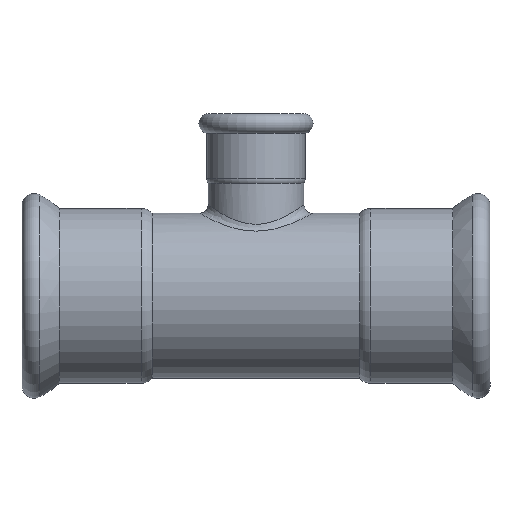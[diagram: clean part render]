
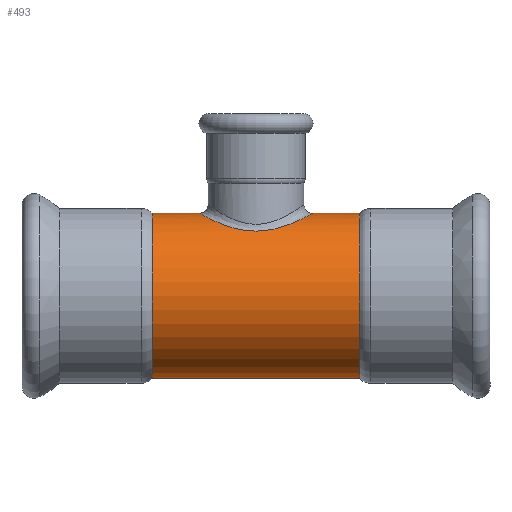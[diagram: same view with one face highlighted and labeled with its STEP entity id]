
A CAD part, front view. The second image highlights one B-rep face of the part: STEP entity #493.
In plain terms, the highlighted cylindrical face has radius 38.05 mm (diameter 76.1 mm), a full revolution.
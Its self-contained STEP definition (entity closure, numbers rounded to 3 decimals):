
#20=B_SPLINE_CURVE_WITH_KNOTS($,3,(#1248,#1249,#1250,#1251,#1252,#1253,
#1254,#1255,#1256,#1257,#1258,#1259,#1260,#1261,#1262,#1263,#1264,#1265,
#1266,#1267,#1268,#1269,#1270,#1271,#1272,#1273),.UNSPECIFIED.,.T.,.F.,
(4,3,1,1,1,1,1,1,1,1,1,1,1,1,1,1,1,1,1,1,1,4),(-13.642,-13.642,
-13.155,-12.668,-11.693,-11.044,
-10.394,-9.744,-9.095,-8.445,
-7.796,-7.146,-6.496,-5.847,
-4.547,-3.898,-3.248,-2.599,
-1.949,-0.974,-0.487,0.),
 .UNSPECIFIED.);
#60=FACE_BOUND($,#182,.T.);
#61=FACE_BOUND($,#183,.T.);
#93=CYLINDRICAL_SURFACE($,#565,38.05);
#122=FACE_OUTER_BOUND($,#181,.T.);
#181=EDGE_LOOP($,(#424));
#182=EDGE_LOOP($,(#425));
#183=EDGE_LOOP($,(#426));
#255=CIRCLE($,#566,38.05);
#256=CIRCLE($,#567,38.05);
#300=VERTEX_POINT($,#1219);
#302=VERTEX_POINT($,#1276);
#303=VERTEX_POINT($,#1278);
#352=EDGE_CURVE($,#300,#300,#20,.T.);
#353=EDGE_CURVE($,#302,#302,#255,.T.);
#354=EDGE_CURVE($,#303,#303,#256,.T.);
#424=ORIENTED_EDGE($,*,*,#353,.F.);
#425=ORIENTED_EDGE($,*,*,#354,.T.);
#426=ORIENTED_EDGE($,*,*,#352,.F.);
#493=ADVANCED_FACE($,(#122,#60,#61),#93,.T.);
#565=AXIS2_PLACEMENT_3D($,#1275,#699,#700);
#566=AXIS2_PLACEMENT_3D($,#1277,#701,#702);
#567=AXIS2_PLACEMENT_3D($,#1279,#703,#704);
#699=DIRECTION('center_axis',(1.,0.,0.));
#700=DIRECTION('ref_axis',(0.,1.,0.));
#701=DIRECTION('center_axis',(1.,0.,0.));
#702=DIRECTION('ref_axis',(0.,1.,0.));
#703=DIRECTION('center_axis',(1.,0.,0.));
#704=DIRECTION('ref_axis',(0.,1.,0.));
#1219=CARTESIAN_POINT('',(-108.,-23.527,29.905));
#1248=CARTESIAN_POINT('Ctrl Pts',(-108.,-23.527,29.904));
#1249=CARTESIAN_POINT('Ctrl Pts',(-108.,-23.527,29.904));
#1250=CARTESIAN_POINT('Ctrl Pts',(-108.,-23.527,29.904));
#1251=CARTESIAN_POINT('Ctrl Pts',(-108.,-23.527,29.904));
#1252=CARTESIAN_POINT('Ctrl Pts',(-106.006,-23.527,29.905));
#1253=CARTESIAN_POINT('Ctrl Pts',(-102.02,-23.109,30.24));
#1254=CARTESIAN_POINT('Ctrl Pts',(-94.631,-20.701,32.014));
#1255=CARTESIAN_POINT('Ctrl Pts',(-88.134,-15.987,34.802));
#1256=CARTESIAN_POINT('Ctrl Pts',(-83.517,-8.928,37.197));
#1257=CARTESIAN_POINT('Ctrl Pts',(-81.661,-1.844,38.243));
#1258=CARTESIAN_POINT('Ctrl Pts',(-82.29,5.466,37.883));
#1259=CARTESIAN_POINT('Ctrl Pts',(-85.27,12.122,36.257));
#1260=CARTESIAN_POINT('Ctrl Pts',(-90.1,17.516,33.916));
#1261=CARTESIAN_POINT('Ctrl Pts',(-96.398,21.437,31.511));
#1262=CARTESIAN_POINT('Ctrl Pts',(-103.916,23.611,29.845));
#1263=CARTESIAN_POINT('Ctrl Pts',(-112.067,23.622,29.83));
#1264=CARTESIAN_POINT('Ctrl Pts',(-122.104,20.704,32.086));
#1265=CARTESIAN_POINT('Ctrl Pts',(-129.733,14.322,35.727));
#1266=CARTESIAN_POINT('Ctrl Pts',(-133.707,5.487,37.876));
#1267=CARTESIAN_POINT('Ctrl Pts',(-134.336,-1.835,38.243));
#1268=CARTESIAN_POINT('Ctrl Pts',(-132.493,-8.914,37.201));
#1269=CARTESIAN_POINT('Ctrl Pts',(-127.858,-15.996,34.799));
#1270=CARTESIAN_POINT('Ctrl Pts',(-121.365,-20.703,32.012));
#1271=CARTESIAN_POINT('Ctrl Pts',(-113.992,-23.105,30.243));
#1272=CARTESIAN_POINT('Ctrl Pts',(-109.994,-23.527,29.904));
#1273=CARTESIAN_POINT('Ctrl Pts',(-108.,-23.527,29.904));
#1275=CARTESIAN_POINT('Origin',(-67.344,0.,0.));
#1276=CARTESIAN_POINT('',(-60.187,38.05,0.));
#1277=CARTESIAN_POINT('Origin',(-60.187,0.,0.));
#1278=CARTESIAN_POINT('',(-155.813,38.05,0.));
#1279=CARTESIAN_POINT('Origin',(-155.813,0.,0.));
